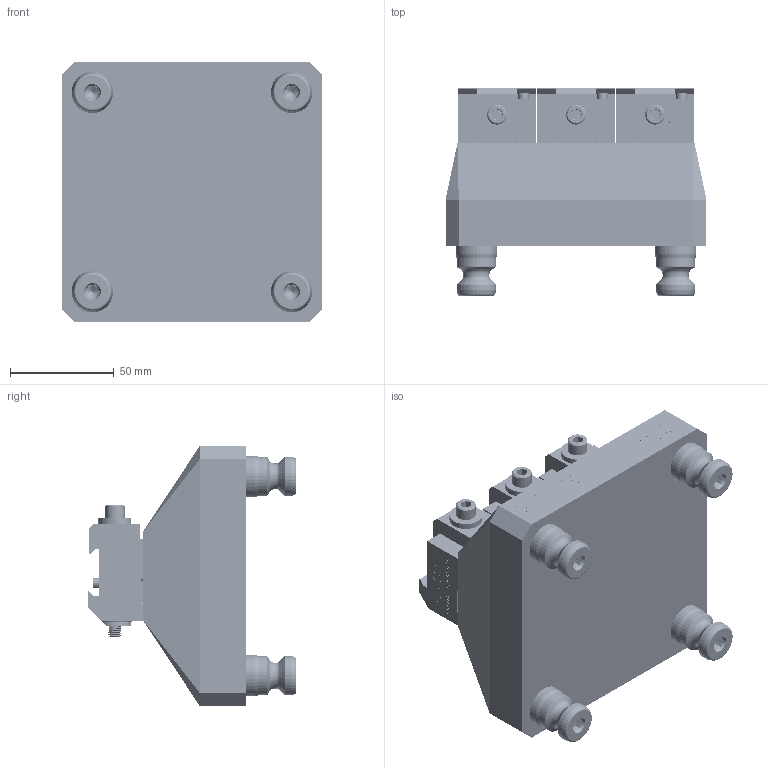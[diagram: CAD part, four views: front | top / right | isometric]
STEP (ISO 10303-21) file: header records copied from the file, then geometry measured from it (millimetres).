
FILE_DESCRIPTION (( 'STEP AP214' ), '1' );
FILE_NAME ('R96-3D115P.STEP', '2019-12-18T18:51:41', ( '' ), ( '' ), 'SwSTEP 2.0', 'SolidWorks 2018', '' );
FILE_SCHEMA (( 'AUTOMOTIVE_DESIGN' ));
Length unit declared in the file: millimetre
Products named in the file (15): PS20F-1_HARD TURN; R96-3D115-1; R96-3D115P; D115P; LP250P_NO THREADS ; HW.LC049E05M; HW.73074_DEFAULT; HW.0250.FW_DEFAULT; HW.01480; SLD25_SLD25; CDS25; LP250_NO THREADS ; D1151P-1_FINISHED PART; PS20F; 39874.CPSS_91390A162
Assembly tree (20 placements, depth 3):
  R96-3D115P
    R96-3D115-1
    PS20F  x4
      PS20F-1_HARD TURN
      39874.CPSS_91390A162
    D115P  x3
      D1151P-1_FINISHED PART
      LP250_NO THREADS 
      CDS25
      SLD25_SLD25
      HW.01480
      HW.0250.FW_DEFAULT
      HW.73074_DEFAULT
      HW.LC049E05M
      LP250P_NO THREADS 
Bounding box: 125.73 x 100.2 x 125.73 mm (x, y, z)
Volume: 744312.8 mm3; surface area: 126108.2 mm2
Topology: 39 solids, 39 shells, 3878 faces, 9943 edges, 6430 vertices
Faces by surface type: plane 1669, cylinder 880, bspline 872, cone 345, torus 112
Entity records: 83877 total; most frequent: CARTESIAN_POINT 37215, ORIENTED_EDGE 8198, DIRECTION 5762, EDGE_CURVE 4099, VERTEX_POINT 2680, LINE 2458, VECTOR 2458, EDGE_LOOP 1797
